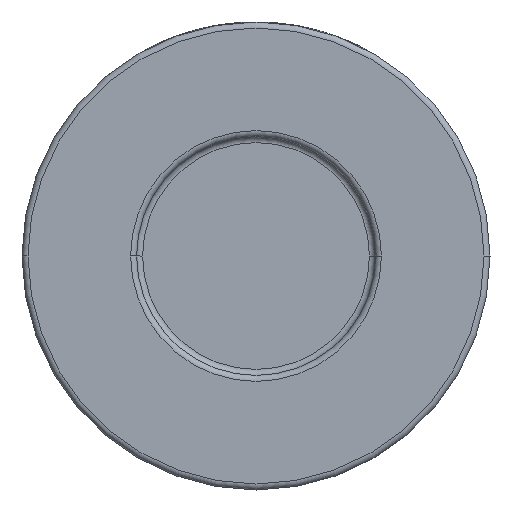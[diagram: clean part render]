
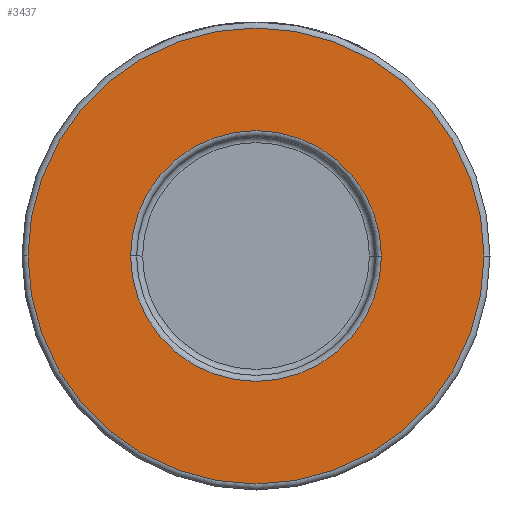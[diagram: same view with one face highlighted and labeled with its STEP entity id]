
A CAD part, front view. The second image highlights one B-rep face of the part: STEP entity #3437.
In plain terms, the highlighted planar face has unit normal (0, -1, 0).
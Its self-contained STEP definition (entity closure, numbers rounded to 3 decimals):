
#40 = EDGE_CURVE ( 'NONE', #3686, #3488, #1070, .T. ) ;
#73 = VERTEX_POINT ( 'NONE', #3547 ) ;
#215 = DIRECTION ( 'NONE',  ( 0., -1., 0. ) ) ;
#336 = AXIS2_PLACEMENT_3D ( 'NONE', #3403, #3701, #1925 ) ;
#435 = DIRECTION ( 'NONE',  ( 0., 1., 0. ) ) ;
#454 = DIRECTION ( 'NONE',  ( 1., 0., 0. ) ) ;
#491 = AXIS2_PLACEMENT_3D ( 'NONE', #820, #2505, #845 ) ;
#508 = PLANE ( 'NONE',  #4274 ) ;
#580 = CARTESIAN_POINT ( 'NONE',  ( 39., -26., 0. ) ) ;
#629 = EDGE_CURVE ( 'NONE', #1313, #73, #1439, .T. ) ;
#820 = CARTESIAN_POINT ( 'NONE',  ( 0., -26., 0. ) ) ;
#845 = DIRECTION ( 'NONE',  ( 1., 0., 0. ) ) ;
#1070 = CIRCLE ( 'NONE', #1508, 20.9 ) ;
#1087 = CIRCLE ( 'NONE', #491, 38. ) ;
#1246 = EDGE_LOOP ( 'NONE', ( #2777, #4544 ) ) ;
#1313 = VERTEX_POINT ( 'NONE', #2061 ) ;
#1439 = CIRCLE ( 'NONE', #336, 38. ) ;
#1498 = DIRECTION ( 'NONE',  ( 0., 1., 0. ) ) ;
#1508 = AXIS2_PLACEMENT_3D ( 'NONE', #1522, #1498, #1782 ) ;
#1522 = CARTESIAN_POINT ( 'NONE',  ( 0., -26., 0. ) ) ;
#1611 = ORIENTED_EDGE ( 'NONE', *, *, #629, .T. ) ;
#1720 = ORIENTED_EDGE ( 'NONE', *, *, #1876, .T. ) ;
#1782 = DIRECTION ( 'NONE',  ( 1., 0., 0. ) ) ;
#1876 = EDGE_CURVE ( 'NONE', #73, #1313, #1087, .T. ) ;
#1918 = CIRCLE ( 'NONE', #2649, 20.9 ) ;
#1925 = DIRECTION ( 'NONE',  ( 1., 0., 0. ) ) ;
#1969 = DIRECTION ( 'NONE',  ( 1., 0., 0. ) ) ;
#2061 = CARTESIAN_POINT ( 'NONE',  ( -38., -26., 0. ) ) ;
#2373 = CARTESIAN_POINT ( 'NONE',  ( 20.9, -26., 0. ) ) ;
#2505 = DIRECTION ( 'NONE',  ( 0., -1., 0. ) ) ;
#2593 = CARTESIAN_POINT ( 'NONE',  ( -20.9, -26., 0. ) ) ;
#2598 = FACE_OUTER_BOUND ( 'NONE', #3096, .T. ) ;
#2649 = AXIS2_PLACEMENT_3D ( 'NONE', #3695, #435, #454 ) ;
#2777 = ORIENTED_EDGE ( 'NONE', *, *, #4082, .T. ) ;
#3096 = EDGE_LOOP ( 'NONE', ( #1720, #1611 ) ) ;
#3403 = CARTESIAN_POINT ( 'NONE',  ( 0., -26., 0. ) ) ;
#3437 = ADVANCED_FACE ( 'NONE', ( #3746, #2598 ), #508, .T. ) ;
#3488 = VERTEX_POINT ( 'NONE', #2373 ) ;
#3547 = CARTESIAN_POINT ( 'NONE',  ( 38., -26., 0. ) ) ;
#3686 = VERTEX_POINT ( 'NONE', #2593 ) ;
#3695 = CARTESIAN_POINT ( 'NONE',  ( 0., -26., 0. ) ) ;
#3701 = DIRECTION ( 'NONE',  ( 0., -1., 0. ) ) ;
#3746 = FACE_BOUND ( 'NONE', #1246, .T. ) ;
#4082 = EDGE_CURVE ( 'NONE', #3488, #3686, #1918, .T. ) ;
#4274 = AXIS2_PLACEMENT_3D ( 'NONE', #580, #215, #1969 ) ;
#4544 = ORIENTED_EDGE ( 'NONE', *, *, #40, .T. ) ;
